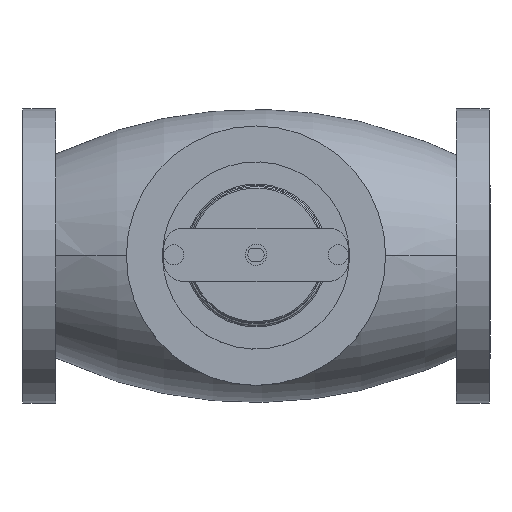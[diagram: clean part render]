
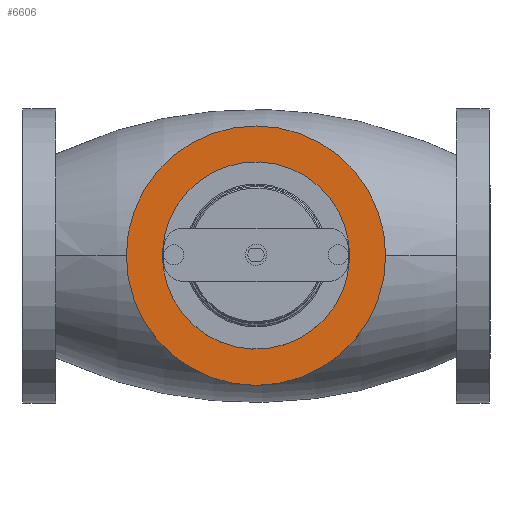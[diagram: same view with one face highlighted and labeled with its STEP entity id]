
A CAD part, top view. The second image highlights one B-rep face of the part: STEP entity #6606.
In plain terms, the highlighted planar face has unit normal (0, 0, 1).
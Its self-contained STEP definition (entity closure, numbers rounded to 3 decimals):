
#38 = EDGE_CURVE ( 'NONE', #8444, #7704, #6777, .T. ) ;
#151 = EDGE_CURVE ( 'NONE', #5053, #940, #1041, .T. ) ;
#264 = ORIENTED_EDGE ( 'NONE', *, *, #151, .F. ) ;
#622 = ORIENTED_EDGE ( 'NONE', *, *, #38, .F. ) ;
#773 = CARTESIAN_POINT ( 'NONE',  ( 23.995, 11.593, 72.58 ) ) ;
#940 = VERTEX_POINT ( 'NONE', #7610 ) ;
#1041 = CIRCLE ( 'NONE', #1513, 21.603 ) ;
#1088 = AXIS2_PLACEMENT_3D ( 'NONE', #3434, #6487, #1144 ) ;
#1144 = DIRECTION ( 'NONE',  ( 1., 0., 0. ) ) ;
#1203 = PLANE ( 'NONE',  #7819 ) ;
#1301 = DIRECTION ( 'NONE',  ( 0., 0., 1. ) ) ;
#1513 = AXIS2_PLACEMENT_3D ( 'NONE', #773, #3168, #7026 ) ;
#1537 = CARTESIAN_POINT ( 'NONE',  ( 120.995, 11.593, 72.58 ) ) ;
#1569 = DIRECTION ( 'NONE',  ( -1., 0., 0. ) ) ;
#1668 = CARTESIAN_POINT ( 'NONE',  ( 23.995, 11.593, 72.58 ) ) ;
#2242 = EDGE_CURVE ( 'NONE', #7704, #8444, #3305, .T. ) ;
#2655 = AXIS2_PLACEMENT_3D ( 'NONE', #4484, #2796, #6655 ) ;
#2796 = DIRECTION ( 'NONE',  ( 0., 0., -1. ) ) ;
#3168 = DIRECTION ( 'NONE',  ( 0., 0., 1. ) ) ;
#3305 = CIRCLE ( 'NONE', #2655, 97. ) ;
#3434 = CARTESIAN_POINT ( 'NONE',  ( 23.995, 11.593, 72.58 ) ) ;
#4235 = DIRECTION ( 'NONE',  ( 1., 0., 0. ) ) ;
#4484 = CARTESIAN_POINT ( 'NONE',  ( 23.995, 11.593, 72.58 ) ) ;
#4696 = AXIS2_PLACEMENT_3D ( 'NONE', #1668, #6098, #1569 ) ;
#4973 = ORIENTED_EDGE ( 'NONE', *, *, #7362, .F. ) ;
#5003 = ORIENTED_EDGE ( 'NONE', *, *, #2242, .F. ) ;
#5053 = VERTEX_POINT ( 'NONE', #5449 ) ;
#5449 = CARTESIAN_POINT ( 'NONE',  ( 2.392, 11.593, 72.58 ) ) ;
#5742 = CARTESIAN_POINT ( 'NONE',  ( 23.995, 11.593, 72.58 ) ) ;
#6098 = DIRECTION ( 'NONE',  ( 0., 0., -1. ) ) ;
#6487 = DIRECTION ( 'NONE',  ( 0., 0., 1. ) ) ;
#6606 = ADVANCED_FACE ( 'NONE', ( #6646, #7366 ), #1203, .T. ) ;
#6646 = FACE_BOUND ( 'NONE', #9116, .T. ) ;
#6655 = DIRECTION ( 'NONE',  ( -1., 0., 0. ) ) ;
#6777 = CIRCLE ( 'NONE', #4696, 97. ) ;
#7026 = DIRECTION ( 'NONE',  ( 1., 0., 0. ) ) ;
#7362 = EDGE_CURVE ( 'NONE', #940, #5053, #9430, .T. ) ;
#7366 = FACE_OUTER_BOUND ( 'NONE', #9655, .T. ) ;
#7610 = CARTESIAN_POINT ( 'NONE',  ( 45.598, 11.593, 72.58 ) ) ;
#7704 = VERTEX_POINT ( 'NONE', #8956 ) ;
#7819 = AXIS2_PLACEMENT_3D ( 'NONE', #5742, #1301, #4235 ) ;
#8444 = VERTEX_POINT ( 'NONE', #1537 ) ;
#8956 = CARTESIAN_POINT ( 'NONE',  ( -73.005, 11.593, 72.58 ) ) ;
#9116 = EDGE_LOOP ( 'NONE', ( #4973, #264 ) ) ;
#9430 = CIRCLE ( 'NONE', #1088, 21.603 ) ;
#9655 = EDGE_LOOP ( 'NONE', ( #622, #5003 ) ) ;
